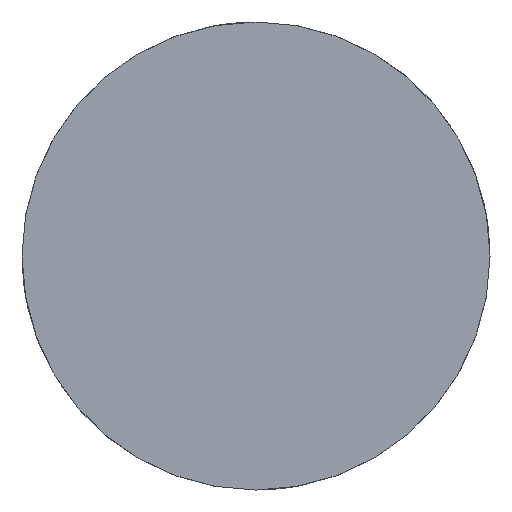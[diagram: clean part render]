
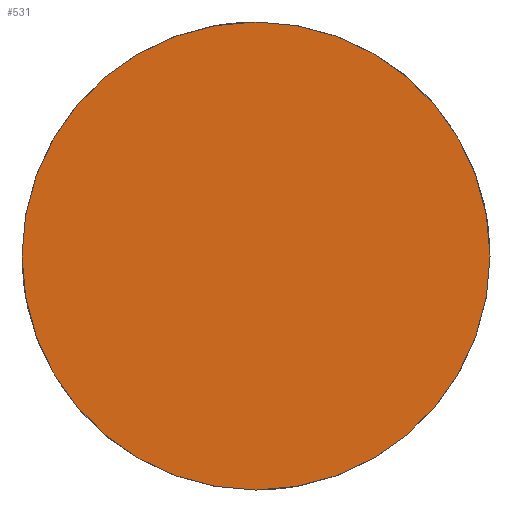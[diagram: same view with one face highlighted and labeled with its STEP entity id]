
A CAD part, left-side view. The second image highlights one B-rep face of the part: STEP entity #531.
In plain terms, the highlighted planar face has unit normal (-1, 0, 0).
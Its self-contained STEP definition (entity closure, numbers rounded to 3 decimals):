
#463=CARTESIAN_POINT('Vertex',(-2.,0.,-2.)) ;
#466=CARTESIAN_POINT('Axis2P3D Location',(-2.,0.,0.)) ;
#470=CARTESIAN_POINT('Vertex',(-2.,2.,0.)) ;
#473=CARTESIAN_POINT('Axis2P3D Location',(-2.,0.,0.)) ;
#477=CARTESIAN_POINT('Vertex',(-2.,0.,2.)) ;
#499=CARTESIAN_POINT('Axis2P3D Location',(-2.,0.,0.)) ;
#503=CARTESIAN_POINT('Vertex',(-2.,-2.,0.)) ;
#506=CARTESIAN_POINT('Axis2P3D Location',(-2.,0.,0.)) ;
#520=CARTESIAN_POINT('Axis2P3D Location',(-2.,0.,0.)) ;
#467=DIRECTION('Axis2P3D Direction',(-1.,-0.,-0.)) ;
#474=DIRECTION('Axis2P3D Direction',(-1.,-0.,-0.)) ;
#500=DIRECTION('Axis2P3D Direction',(-1.,-0.,-0.)) ;
#507=DIRECTION('Axis2P3D Direction',(-1.,-0.,-0.)) ;
#521=DIRECTION('Axis2P3D Direction',(1.,0.,-0.)) ;
#522=DIRECTION('Axis2P3D XDirection',(-0.,0.,-1.)) ;
#468=AXIS2_PLACEMENT_3D('Circle Axis2P3D',#466,#467,$) ;
#475=AXIS2_PLACEMENT_3D('Circle Axis2P3D',#473,#474,$) ;
#501=AXIS2_PLACEMENT_3D('Circle Axis2P3D',#499,#500,$) ;
#508=AXIS2_PLACEMENT_3D('Circle Axis2P3D',#506,#507,$) ;
#523=AXIS2_PLACEMENT_3D('Plane Axis2P3D',#520,#521,#522) ;
#526=ORIENTED_EDGE('',*,*,#472,.F.) ;
#527=ORIENTED_EDGE('',*,*,#510,.F.) ;
#528=ORIENTED_EDGE('',*,*,#505,.F.) ;
#529=ORIENTED_EDGE('',*,*,#479,.F.) ;
#531=ADVANCED_FACE('359-1X2X125',(#530),#524,.F.) ;
#469=CIRCLE('generated circle',#468,2.) ;
#476=CIRCLE('generated circle',#475,2.) ;
#502=CIRCLE('generated circle',#501,2.) ;
#509=CIRCLE('generated circle',#508,2.) ;
#472=EDGE_CURVE('',#464,#471,#469,.F.) ;
#479=EDGE_CURVE('',#471,#478,#476,.F.) ;
#505=EDGE_CURVE('',#478,#504,#502,.F.) ;
#510=EDGE_CURVE('',#504,#464,#509,.F.) ;
#525=EDGE_LOOP('',(#526,#527,#528,#529)) ;
#530=FACE_OUTER_BOUND('',#525,.T.) ;
#524=PLANE('Plane',#523) ;
#464=VERTEX_POINT('',#463) ;
#471=VERTEX_POINT('',#470) ;
#478=VERTEX_POINT('',#477) ;
#504=VERTEX_POINT('',#503) ;
